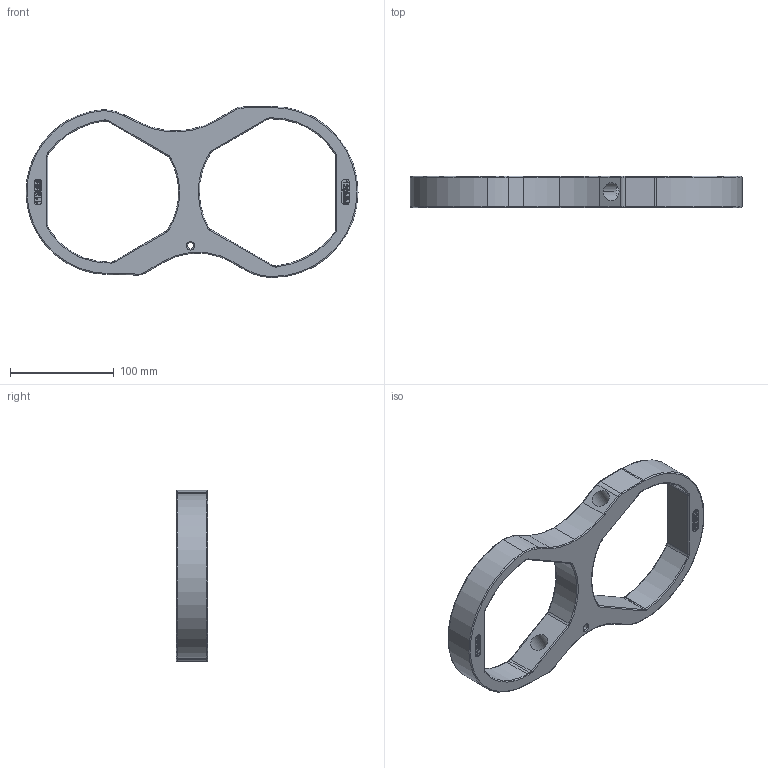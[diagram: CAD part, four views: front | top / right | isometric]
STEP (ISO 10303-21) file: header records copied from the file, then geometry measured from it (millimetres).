
FILE_DESCRIPTION (( 'STEP AP214' ), '1' );
FILE_NAME ('NF12.STEP', '2019-12-09T14:13:42', ( '' ), ( '' ), 'SwSTEP 2.0', 'SolidWorks 2017', '' );
FILE_SCHEMA (( 'AUTOMOTIVE_DESIGN' ));
Length unit declared in the file: millimetre
Products named in the file (1): NF12
Bounding box: 319.95 x 30 x 164.87 mm (x, y, z)
Volume: 444688.7 mm3; surface area: 82541.3 mm2
Topology: 1 solids, 1 shells, 428 faces, 1116 edges, 716 vertices
Faces by surface type: plane 204, bspline 84, cylinder 74, torus 62, cone 4
Entity records: 17172 total; most frequent: CARTESIAN_POINT 6987, ORIENTED_EDGE 2232, DIRECTION 1892, EDGE_CURVE 1116, VERTEX_POINT 716, LINE 690, VECTOR 690, AXIS2_PLACEMENT_3D 601
